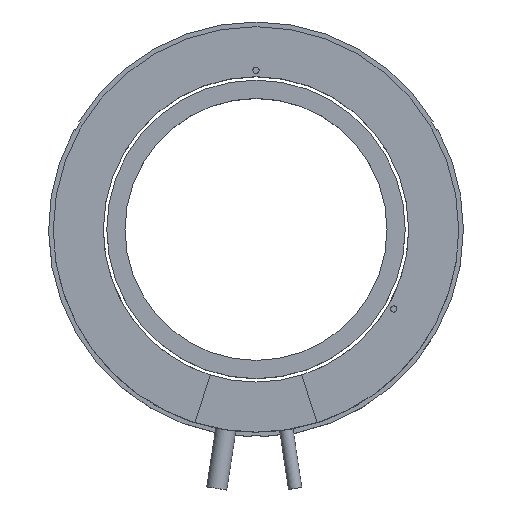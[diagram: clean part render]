
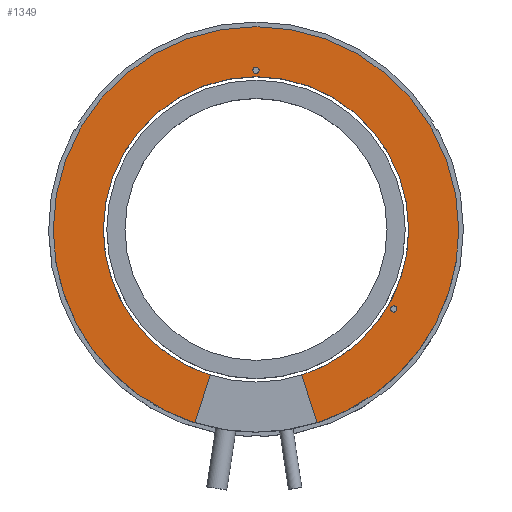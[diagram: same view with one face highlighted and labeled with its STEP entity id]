
A CAD part, top view. The second image highlights one B-rep face of the part: STEP entity #1349.
In plain terms, the highlighted planar face has unit normal (0, 0, 1).
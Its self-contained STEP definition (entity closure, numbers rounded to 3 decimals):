
#6 = AXIS2_PLACEMENT_3D ( 'NONE', #1125, #209, #350 ) ;
#26 = AXIS2_PLACEMENT_3D ( 'NONE', #548, #1122, #109 ) ;
#40 = VERTEX_POINT ( 'NONE', #42 ) ;
#42 = CARTESIAN_POINT ( 'NONE',  ( 43.167, -25.5, 34. ) ) ;
#63 = DIRECTION ( 'NONE',  ( -0.301, 0.954, 0. ) ) ;
#84 = ORIENTED_EDGE ( 'NONE', *, *, #1147, .T. ) ;
#86 = CIRCLE ( 'NONE', #1326, 48.95 ) ;
#100 = VERTEX_POINT ( 'NONE', #1206 ) ;
#109 = DIRECTION ( 'NONE',  ( 1., 0., 0. ) ) ;
#114 = DIRECTION ( 'NONE',  ( 1., 0., 0. ) ) ;
#164 = CARTESIAN_POINT ( 'NONE',  ( -14.72, -46.684, 34. ) ) ;
#191 = AXIS2_PLACEMENT_3D ( 'NONE', #516, #745, #1205 ) ;
#194 = AXIS2_PLACEMENT_3D ( 'NONE', #215, #366, #1478 ) ;
#208 = DIRECTION ( 'NONE',  ( 1., 0., 0. ) ) ;
#209 = DIRECTION ( 'NONE',  ( 0., 0., 1. ) ) ;
#215 = CARTESIAN_POINT ( 'NONE',  ( 0., 0., 34. ) ) ;
#244 = CARTESIAN_POINT ( 'NONE',  ( 0., 0., 34. ) ) ;
#247 = ORIENTED_EDGE ( 'NONE', *, *, #1301, .F. ) ;
#272 = CIRCLE ( 'NONE', #774, 65. ) ;
#274 = ORIENTED_EDGE ( 'NONE', *, *, #339, .F. ) ;
#275 = EDGE_CURVE ( 'NONE', #1415, #1481, #444, .T. ) ;
#278 = EDGE_CURVE ( 'NONE', #345, #594, #1317, .T. ) ;
#295 = CIRCLE ( 'NONE', #1444, 65. ) ;
#307 = LINE ( 'NONE', #755, #1490 ) ;
#338 = DIRECTION ( 'NONE',  ( 0., 0., 1. ) ) ;
#339 = EDGE_CURVE ( 'NONE', #603, #594, #1299, .T. ) ;
#345 = VERTEX_POINT ( 'NONE', #930 ) ;
#347 = CIRCLE ( 'NONE', #632, 48.95 ) ;
#350 = DIRECTION ( 'NONE',  ( 1., 0., 0. ) ) ;
#364 = CARTESIAN_POINT ( 'NONE',  ( -1., 51., 34. ) ) ;
#366 = DIRECTION ( 'NONE',  ( 0., 0., 1. ) ) ;
#397 = CIRCLE ( 'NONE', #191, 1. ) ;
#444 = CIRCLE ( 'NONE', #1116, 1. ) ;
#446 = CARTESIAN_POINT ( 'NONE',  ( 1., 51., 34. ) ) ;
#460 = ORIENTED_EDGE ( 'NONE', *, *, #275, .F. ) ;
#488 = ORIENTED_EDGE ( 'NONE', *, *, #1219, .F. ) ;
#491 = ORIENTED_EDGE ( 'NONE', *, *, #839, .F. ) ;
#492 = ORIENTED_EDGE ( 'NONE', *, *, #1303, .T. ) ;
#509 = ORIENTED_EDGE ( 'NONE', *, *, #278, .T. ) ;
#511 = VERTEX_POINT ( 'NONE', #1117 ) ;
#515 = EDGE_CURVE ( 'NONE', #511, #1393, #86, .T. ) ;
#516 = CARTESIAN_POINT ( 'NONE',  ( 0., 51., 34. ) ) ;
#530 = DIRECTION ( 'NONE',  ( 0., 0., 1. ) ) ;
#548 = CARTESIAN_POINT ( 'NONE',  ( 48.95, 0., 34. ) ) ;
#566 = DIRECTION ( 'NONE',  ( 0., 0., 1. ) ) ;
#576 = VERTEX_POINT ( 'NONE', #783 ) ;
#590 = DIRECTION ( 'NONE',  ( 0., 0., 1. ) ) ;
#594 = VERTEX_POINT ( 'NONE', #685 ) ;
#600 = DIRECTION ( 'NONE',  ( 0., 0., 1. ) ) ;
#603 = VERTEX_POINT ( 'NONE', #692 ) ;
#625 = ORIENTED_EDGE ( 'NONE', *, *, #682, .F. ) ;
#632 = AXIS2_PLACEMENT_3D ( 'NONE', #1059, #1306, #1050 ) ;
#663 = CARTESIAN_POINT ( 'NONE',  ( 0., 0., 34. ) ) ;
#682 = EDGE_CURVE ( 'NONE', #1393, #603, #347, .T. ) ;
#685 = CARTESIAN_POINT ( 'NONE',  ( -19.546, -61.992, 34. ) ) ;
#687 = CARTESIAN_POINT ( 'NONE',  ( 0., 51., 34. ) ) ;
#692 = CARTESIAN_POINT ( 'NONE',  ( -14.72, -46.684, 34. ) ) ;
#710 = ORIENTED_EDGE ( 'NONE', *, *, #515, .F. ) ;
#745 = DIRECTION ( 'NONE',  ( 0., 0., 1. ) ) ;
#750 = AXIS2_PLACEMENT_3D ( 'NONE', #1378, #566, #805 ) ;
#755 = CARTESIAN_POINT ( 'NONE',  ( 14.72, -46.684, 34. ) ) ;
#774 = AXIS2_PLACEMENT_3D ( 'NONE', #244, #600, #1015 ) ;
#783 = CARTESIAN_POINT ( 'NONE',  ( 19.546, -61.992, 34. ) ) ;
#787 = PLANE ( 'NONE',  #26 ) ;
#795 = FACE_BOUND ( 'NONE', #1251, .T. ) ;
#805 = DIRECTION ( 'NONE',  ( 1., 0., 0. ) ) ;
#818 = EDGE_LOOP ( 'NONE', ( #460, #1304 ) ) ;
#829 = CIRCLE ( 'NONE', #194, 48.95 ) ;
#839 = EDGE_CURVE ( 'NONE', #576, #100, #307, .T. ) ;
#886 = FACE_BOUND ( 'NONE', #818, .T. ) ;
#887 = VECTOR ( 'NONE', #1167, 1000. ) ;
#907 = CARTESIAN_POINT ( 'NONE',  ( 45.167, -25.5, 34. ) ) ;
#913 = CIRCLE ( 'NONE', #1424, 1. ) ;
#930 = CARTESIAN_POINT ( 'NONE',  ( -65., 0., 34. ) ) ;
#952 = ORIENTED_EDGE ( 'NONE', *, *, #1280, .F. ) ;
#980 = CARTESIAN_POINT ( 'NONE',  ( 0., 0., 34. ) ) ;
#994 = DIRECTION ( 'NONE',  ( 1., 0., 0. ) ) ;
#1015 = DIRECTION ( 'NONE',  ( 1., 0., 0. ) ) ;
#1020 = CARTESIAN_POINT ( 'NONE',  ( -48.95, 0., 34. ) ) ;
#1050 = DIRECTION ( 'NONE',  ( 1., 0., 0. ) ) ;
#1057 = EDGE_CURVE ( 'NONE', #1481, #1415, #397, .T. ) ;
#1059 = CARTESIAN_POINT ( 'NONE',  ( 0., 0., 34. ) ) ;
#1116 = AXIS2_PLACEMENT_3D ( 'NONE', #687, #1379, #114 ) ;
#1117 = CARTESIAN_POINT ( 'NONE',  ( 48.95, 0., 34. ) ) ;
#1121 = EDGE_LOOP ( 'NONE', ( #491, #492, #84, #509, #274, #625, #710, #488 ) ) ;
#1122 = DIRECTION ( 'NONE',  ( 0., 0., 1. ) ) ;
#1125 = CARTESIAN_POINT ( 'NONE',  ( 0., 0., 34. ) ) ;
#1147 = EDGE_CURVE ( 'NONE', #1200, #345, #295, .T. ) ;
#1156 = CARTESIAN_POINT ( 'NONE',  ( 44.167, -25.5, 34. ) ) ;
#1167 = DIRECTION ( 'NONE',  ( -0.301, -0.954, 0. ) ) ;
#1200 = VERTEX_POINT ( 'NONE', #1386 ) ;
#1205 = DIRECTION ( 'NONE',  ( 1., 0., 0. ) ) ;
#1206 = CARTESIAN_POINT ( 'NONE',  ( 14.72, -46.684, 34. ) ) ;
#1219 = EDGE_CURVE ( 'NONE', #100, #511, #829, .T. ) ;
#1251 = EDGE_LOOP ( 'NONE', ( #952, #247 ) ) ;
#1253 = DIRECTION ( 'NONE',  ( 1., 0., 0. ) ) ;
#1280 = EDGE_CURVE ( 'NONE', #1396, #40, #913, .T. ) ;
#1299 = LINE ( 'NONE', #164, #887 ) ;
#1301 = EDGE_CURVE ( 'NONE', #40, #1396, #1466, .T. ) ;
#1303 = EDGE_CURVE ( 'NONE', #576, #1200, #272, .T. ) ;
#1304 = ORIENTED_EDGE ( 'NONE', *, *, #1057, .F. ) ;
#1306 = DIRECTION ( 'NONE',  ( 0., 0., 1. ) ) ;
#1317 = CIRCLE ( 'NONE', #6, 65. ) ;
#1326 = AXIS2_PLACEMENT_3D ( 'NONE', #663, #338, #1253 ) ;
#1349 = ADVANCED_FACE ( 'NONE', ( #795, #886, #1351 ), #787, .T. ) ;
#1351 = FACE_OUTER_BOUND ( 'NONE', #1121, .T. ) ;
#1378 = CARTESIAN_POINT ( 'NONE',  ( 44.167, -25.5, 34. ) ) ;
#1379 = DIRECTION ( 'NONE',  ( 0., 0., 1. ) ) ;
#1386 = CARTESIAN_POINT ( 'NONE',  ( 65., 0., 34. ) ) ;
#1393 = VERTEX_POINT ( 'NONE', #1020 ) ;
#1396 = VERTEX_POINT ( 'NONE', #907 ) ;
#1415 = VERTEX_POINT ( 'NONE', #446 ) ;
#1424 = AXIS2_PLACEMENT_3D ( 'NONE', #1156, #590, #208 ) ;
#1444 = AXIS2_PLACEMENT_3D ( 'NONE', #980, #530, #994 ) ;
#1466 = CIRCLE ( 'NONE', #750, 1. ) ;
#1478 = DIRECTION ( 'NONE',  ( 1., 0., 0. ) ) ;
#1481 = VERTEX_POINT ( 'NONE', #364 ) ;
#1490 = VECTOR ( 'NONE', #63, 1000. ) ;
